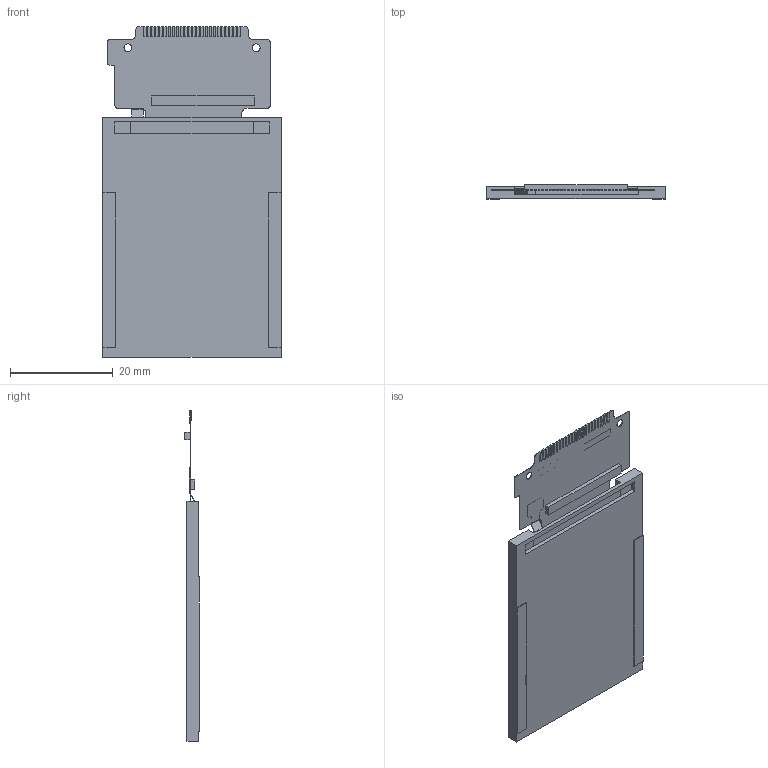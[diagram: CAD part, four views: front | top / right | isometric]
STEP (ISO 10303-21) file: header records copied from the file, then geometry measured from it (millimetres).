
FILE_DESCRIPTION (( 'STEP AP214' ), '1' );
FILE_NAME ('NHD-1.8-128160EF-Cxxx#.STEP', '2018-05-24T14:19:42', ( '' ), ( '' ), 'SwSTEP 2.0', 'SolidWorks 2018', '' );
FILE_SCHEMA (( 'AUTOMOTIVE_DESIGN' ));
Length unit declared in the file: millimetre
Products named in the file (1): NHD-1.8-128160EF-Cxxx#
Bounding box: 34.7 x 2.75 x 64.38 mm (x, y, z)
Volume: 3375.6 mm3; surface area: 5406.5 mm2
Topology: 2 solids, 2 shells, 310 faces, 889 edges, 592 vertices
Faces by surface type: plane 290, cylinder 20
Entity records: 11075 total; most frequent: CARTESIAN_POINT 1792, ORIENTED_EDGE 1778, DIRECTION 1551, EDGE_CURVE 889, VECTOR 849, LINE 849, VERTEX_POINT 592, AXIS2_PLACEMENT_3D 351
